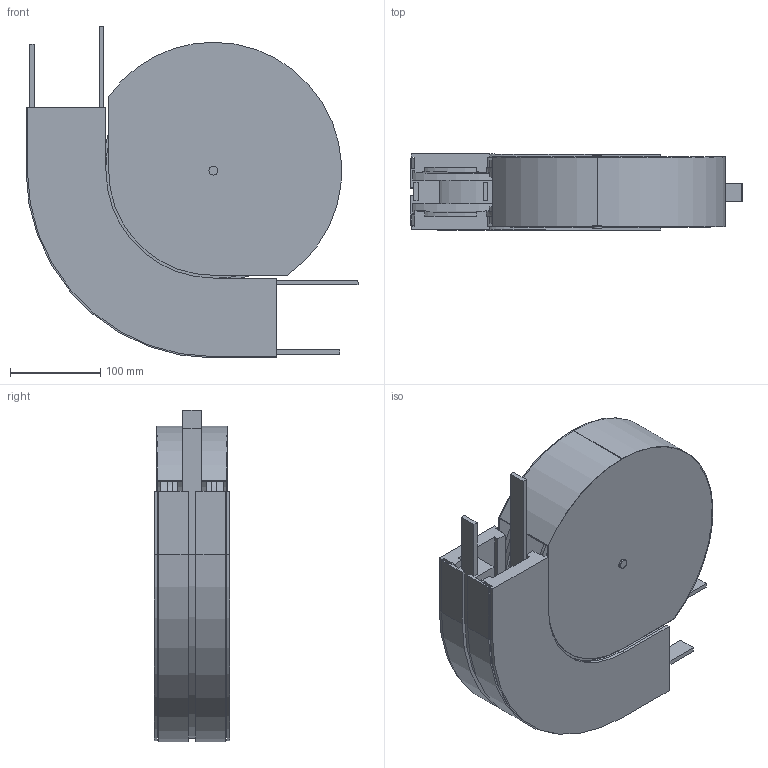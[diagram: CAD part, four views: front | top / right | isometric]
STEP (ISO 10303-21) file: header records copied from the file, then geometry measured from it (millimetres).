
FILE_DESCRIPTION (( 'STEP AP214' ), '1' );
FILE_NAME ('927770 CS090SL Horizontale schijfbochtsectie R162,5 90°.STEP', '2014-03-20T15:38:45', ( 'Beheerder' ), ( '' ), 'SwSTEP 2.0', 'SolidWorks 2012', '' );
FILE_SCHEMA (( 'AUTOMOTIVE_DESIGN' ));
Length unit declared in the file: millimetre
Products named in the file (1): 927770 CS090SL Horizontale schijfbochtsectie R162,5 90°
Bounding box: 367.5 x 84 x 367.5 mm (x, y, z)
Volume: 3335885.3 mm3; surface area: 820613.1 mm2
Topology: 3 solids, 3 shells, 178 faces, 472 edges, 308 vertices
Faces by surface type: plane 122, cylinder 52, cone 4
Entity records: 5544 total; most frequent: CARTESIAN_POINT 959, ORIENTED_EDGE 944, DIRECTION 938, EDGE_CURVE 472, VECTOR 364, LINE 364, VERTEX_POINT 308, AXIS2_PLACEMENT_3D 287
